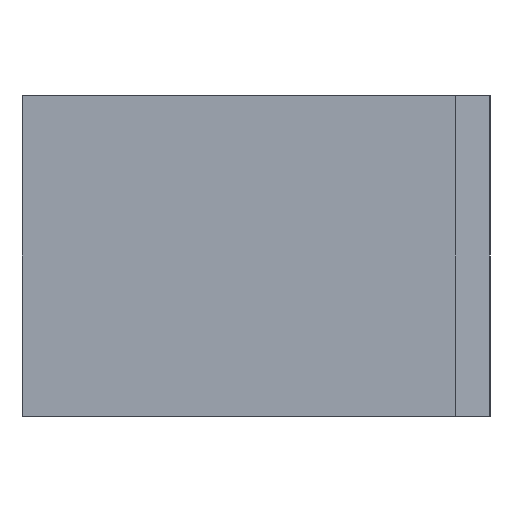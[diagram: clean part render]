
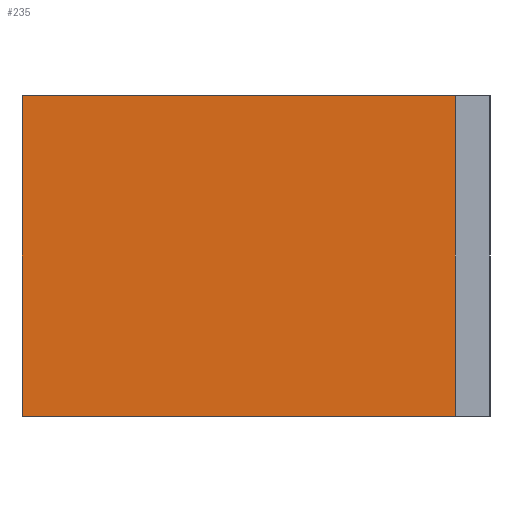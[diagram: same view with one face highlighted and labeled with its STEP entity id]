
A CAD part, left-side view. The second image highlights one B-rep face of the part: STEP entity #235.
In plain terms, the highlighted planar face has unit normal (-1, 0, 0).
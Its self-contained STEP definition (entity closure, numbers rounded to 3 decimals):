
#24 = LINE ( 'NONE', #82, #404 ) ;
#26 = ORIENTED_EDGE ( 'NONE', *, *, #458, .T. ) ;
#31 = VERTEX_POINT ( 'NONE', #441 ) ;
#82 = CARTESIAN_POINT ( 'NONE',  ( -30., 13.5, 9.25 ) ) ;
#96 = CARTESIAN_POINT ( 'NONE',  ( -30., -11.5, 9.25 ) ) ;
#123 = ORIENTED_EDGE ( 'NONE', *, *, #513, .T. ) ;
#169 = VERTEX_POINT ( 'NONE', #310 ) ;
#173 = EDGE_CURVE ( 'NONE', #522, #31, #426, .T. ) ;
#176 = AXIS2_PLACEMENT_3D ( 'NONE', #521, #177, #368 ) ;
#177 = DIRECTION ( 'NONE',  ( -1., 0., 0. ) ) ;
#196 = ORIENTED_EDGE ( 'NONE', *, *, #320, .T. ) ;
#199 = VECTOR ( 'NONE', #537, 1000. ) ;
#232 = DIRECTION ( 'NONE',  ( 0., 0., -1. ) ) ;
#234 = ORIENTED_EDGE ( 'NONE', *, *, #173, .F. ) ;
#235 = ADVANCED_FACE ( 'NONE', ( #417 ), #614, .T. ) ;
#237 = VECTOR ( 'NONE', #241, 1000. ) ;
#241 = DIRECTION ( 'NONE',  ( 0., 1., 0. ) ) ;
#310 = CARTESIAN_POINT ( 'NONE',  ( -30., 13.5, 9.25 ) ) ;
#320 = EDGE_CURVE ( 'NONE', #462, #169, #331, .T. ) ;
#331 = LINE ( 'NONE', #382, #237 ) ;
#368 = DIRECTION ( 'NONE',  ( 0., -1., 0. ) ) ;
#375 = DIRECTION ( 'NONE',  ( 0., 1., 0. ) ) ;
#382 = CARTESIAN_POINT ( 'NONE',  ( -30., -13.5, 9.25 ) ) ;
#386 = LINE ( 'NONE', #96, #199 ) ;
#404 = VECTOR ( 'NONE', #232, 1000. ) ;
#417 = FACE_OUTER_BOUND ( 'NONE', #472, .T. ) ;
#426 = LINE ( 'NONE', #468, #502 ) ;
#433 = CARTESIAN_POINT ( 'NONE',  ( -30., -11.5, 9.25 ) ) ;
#441 = CARTESIAN_POINT ( 'NONE',  ( -30., 13.5, -9.25 ) ) ;
#458 = EDGE_CURVE ( 'NONE', #169, #31, #24, .T. ) ;
#462 = VERTEX_POINT ( 'NONE', #433 ) ;
#468 = CARTESIAN_POINT ( 'NONE',  ( -30., -13.5, -9.25 ) ) ;
#472 = EDGE_LOOP ( 'NONE', ( #234, #123, #196, #26 ) ) ;
#483 = CARTESIAN_POINT ( 'NONE',  ( -30., -11.5, -9.25 ) ) ;
#502 = VECTOR ( 'NONE', #375, 1000. ) ;
#513 = EDGE_CURVE ( 'NONE', #522, #462, #386, .T. ) ;
#521 = CARTESIAN_POINT ( 'NONE',  ( -30., -13.5, 9.25 ) ) ;
#522 = VERTEX_POINT ( 'NONE', #483 ) ;
#537 = DIRECTION ( 'NONE',  ( 0., 0., 1. ) ) ;
#614 = PLANE ( 'NONE',  #176 ) ;
